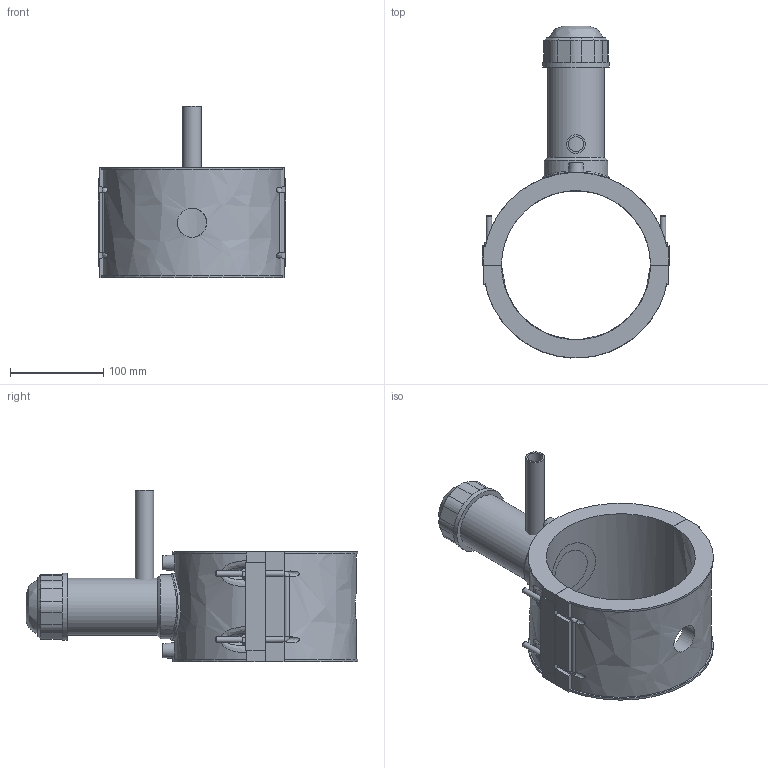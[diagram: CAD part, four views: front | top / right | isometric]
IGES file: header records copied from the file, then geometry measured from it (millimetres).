
Global section: file name: 4963P4160020; native system: Autodesk Inventor 2019; preprocessor: unknown; author: KIM; date: 20220317.112954; units: millimetre
Bounding box: 201 x 356.39 x 184 mm (x, y, z)
Volume: 1505865.9 mm3; surface area: 255317.7 mm2
Topology: 3 solids, 3 shells, 194 faces, 499 edges, 329 vertices
Faces by surface type: bspline 194
